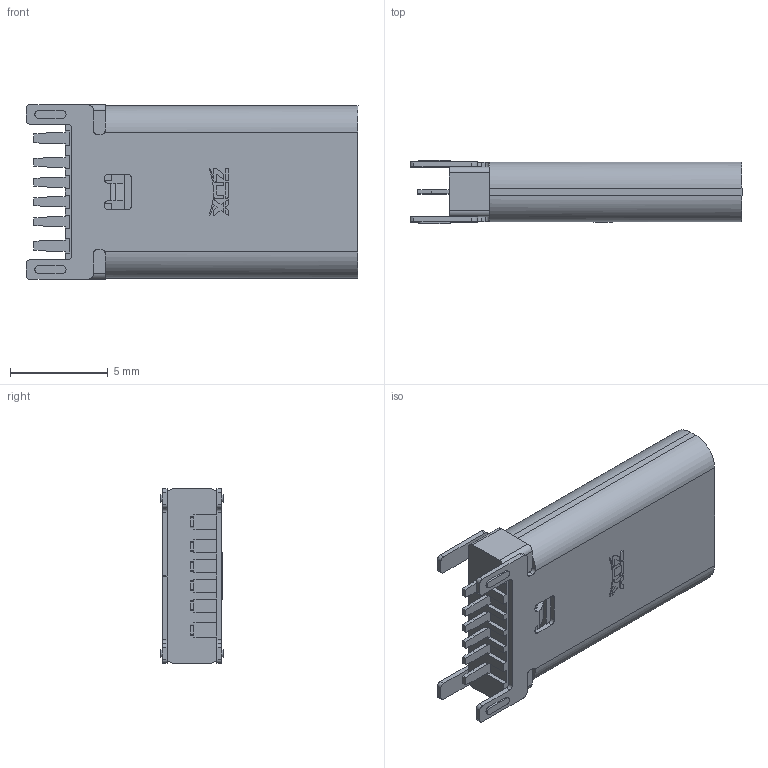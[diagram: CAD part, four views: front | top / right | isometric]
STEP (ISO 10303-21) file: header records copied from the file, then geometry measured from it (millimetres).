
FILE_DESCRIPTION((''),'2;1');
FILE_NAME('ASM0003_ASM','2024-01-30T',('Administrator'),(''),'PRO/ENGINEER BY PARAMETRIC TECHNOLOGY CORPORATION, 2013040','PRO/ENGINEER BY PARAMETRIC TECHNOLOGY CORPORATION, 2013040','');
FILE_SCHEMA(('CONFIG_CONTROL_DESIGN','SHAPE_APPEARANCE_LAYERS_GROUPS'));
Length unit declared in the file: millimetre
Products named in the file (1): ASM0003_ASM
Bounding box: 17 x 3.26 x 8.94 mm (x, y, z)
Volume: 294.4 mm3; surface area: 720.1 mm2
Topology: 1 solids, 30 shells, 632 faces, 1829 edges, 1242 vertices
Faces by surface type: plane 439, cylinder 181, cone 8, bspline 4
Entity records: 20964 total; most frequent: CARTESIAN_POINT 4360, ORIENTED_EDGE 3418, DIRECTION 3289, EDGE_CURVE 1829, VECTOR 1381, LINE 1381, VERTEX_POINT 1242, AXIS2_PLACEMENT_3D 954
